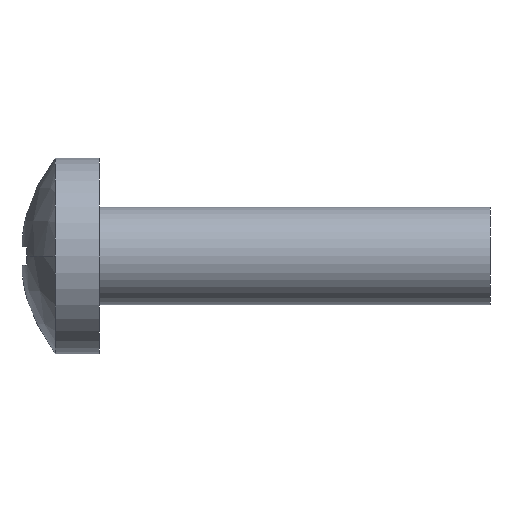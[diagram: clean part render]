
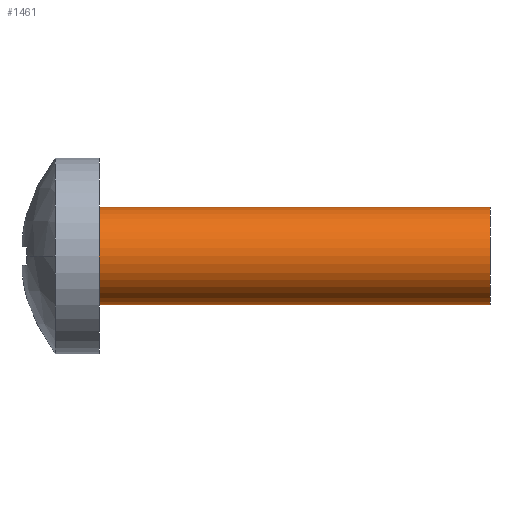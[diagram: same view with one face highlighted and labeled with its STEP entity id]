
A CAD part, front view. The second image highlights one B-rep face of the part: STEP entity #1461.
In plain terms, the highlighted cylindrical face has radius 1 mm (diameter 2 mm), a partial arc.
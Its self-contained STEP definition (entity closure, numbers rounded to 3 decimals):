
#124 = PLANE('',#125);
#125 = AXIS2_PLACEMENT_3D('',#126,#127,#128);
#126 = CARTESIAN_POINT('',(1.6,1.3,0.));
#127 = DIRECTION('',(1.,0.,-0.));
#128 = DIRECTION('',(-0.,0.,-1.));
#212 = VERTEX_POINT('',#213);
#213 = CARTESIAN_POINT('',(1.6,0.,-1.));
#214 = VERTEX_POINT('',#215);
#215 = CARTESIAN_POINT('',(1.6,0.,1.));
#223 = CYLINDRICAL_SURFACE('',#224,1.);
#224 = AXIS2_PLACEMENT_3D('',#225,#226,#227);
#225 = CARTESIAN_POINT('',(4.516,0.,0.));
#226 = DIRECTION('',(1.,-0.,-0.));
#227 = DIRECTION('',(0.,0.,-1.));
#242 = EDGE_CURVE('',#214,#243,#245,.T.);
#243 = VERTEX_POINT('',#244);
#244 = CARTESIAN_POINT('',(9.6,0.,1.));
#245 = SURFACE_CURVE('',#246,(#250,#257),.PCURVE_S1.);
#246 = LINE('',#247,#248);
#247 = CARTESIAN_POINT('',(4.516,0.,1.));
#248 = VECTOR('',#249,1.);
#249 = DIRECTION('',(1.,-0.,-0.));
#250 = PCURVE('',#223,#251);
#251 = DEFINITIONAL_REPRESENTATION('',(#252),#256);
#252 = LINE('',#253,#254);
#253 = CARTESIAN_POINT('',(3.142,0.));
#254 = VECTOR('',#255,1.);
#255 = DIRECTION('',(0.,1.));
#256 = ( GEOMETRIC_REPRESENTATION_CONTEXT(2) 
PARAMETRIC_REPRESENTATION_CONTEXT() REPRESENTATION_CONTEXT('2D SPACE',''
  ) );
#257 = PCURVE('',#258,#263);
#258 = CYLINDRICAL_SURFACE('',#259,1.);
#259 = AXIS2_PLACEMENT_3D('',#260,#261,#262);
#260 = CARTESIAN_POINT('',(4.516,0.,0.));
#261 = DIRECTION('',(1.,-0.,-0.));
#262 = DIRECTION('',(0.,0.,-1.));
#263 = DEFINITIONAL_REPRESENTATION('',(#264),#268);
#264 = LINE('',#265,#266);
#265 = CARTESIAN_POINT('',(3.142,0.));
#266 = VECTOR('',#267,1.);
#267 = DIRECTION('',(0.,1.));
#268 = ( GEOMETRIC_REPRESENTATION_CONTEXT(2) 
PARAMETRIC_REPRESENTATION_CONTEXT() REPRESENTATION_CONTEXT('2D SPACE',''
  ) );
#271 = VERTEX_POINT('',#272);
#272 = CARTESIAN_POINT('',(9.6,0.,-1.));
#287 = PLANE('',#288);
#288 = AXIS2_PLACEMENT_3D('',#289,#290,#291);
#289 = CARTESIAN_POINT('',(9.6,1.,0.));
#290 = DIRECTION('',(1.,0.,-0.));
#291 = DIRECTION('',(-0.,0.,-1.));
#299 = EDGE_CURVE('',#212,#271,#300,.T.);
#300 = SURFACE_CURVE('',#301,(#305,#312),.PCURVE_S1.);
#301 = LINE('',#302,#303);
#302 = CARTESIAN_POINT('',(4.516,0.,-1.));
#303 = VECTOR('',#304,1.);
#304 = DIRECTION('',(1.,-0.,-0.));
#305 = PCURVE('',#223,#306);
#306 = DEFINITIONAL_REPRESENTATION('',(#307),#311);
#307 = LINE('',#308,#309);
#308 = CARTESIAN_POINT('',(0.,0.));
#309 = VECTOR('',#310,1.);
#310 = DIRECTION('',(0.,1.));
#311 = ( GEOMETRIC_REPRESENTATION_CONTEXT(2) 
PARAMETRIC_REPRESENTATION_CONTEXT() REPRESENTATION_CONTEXT('2D SPACE',''
  ) );
#312 = PCURVE('',#258,#313);
#313 = DEFINITIONAL_REPRESENTATION('',(#314),#318);
#314 = LINE('',#315,#316);
#315 = CARTESIAN_POINT('',(6.283,0.));
#316 = VECTOR('',#317,1.);
#317 = DIRECTION('',(0.,1.));
#318 = ( GEOMETRIC_REPRESENTATION_CONTEXT(2) 
PARAMETRIC_REPRESENTATION_CONTEXT() REPRESENTATION_CONTEXT('2D SPACE',''
  ) );
#1440 = EDGE_CURVE('',#243,#271,#1441,.T.);
#1441 = SURFACE_CURVE('',#1442,(#1447,#1454),.PCURVE_S1.);
#1442 = CIRCLE('',#1443,1.);
#1443 = AXIS2_PLACEMENT_3D('',#1444,#1445,#1446);
#1444 = CARTESIAN_POINT('',(9.6,0.,0.));
#1445 = DIRECTION('',(1.,-0.,0.));
#1446 = DIRECTION('',(0.,0.,-1.));
#1447 = PCURVE('',#287,#1448);
#1448 = DEFINITIONAL_REPRESENTATION('',(#1449),#1453);
#1449 = CIRCLE('',#1450,1.);
#1450 = AXIS2_PLACEMENT_2D('',#1451,#1452);
#1451 = CARTESIAN_POINT('',(0.,-1.));
#1452 = DIRECTION('',(1.,0.));
#1453 = ( GEOMETRIC_REPRESENTATION_CONTEXT(2) 
PARAMETRIC_REPRESENTATION_CONTEXT() REPRESENTATION_CONTEXT('2D SPACE',''
  ) );
#1454 = PCURVE('',#258,#1455);
#1455 = DEFINITIONAL_REPRESENTATION('',(#1456),#1460);
#1456 = LINE('',#1457,#1458);
#1457 = CARTESIAN_POINT('',(0.,5.084));
#1458 = VECTOR('',#1459,1.);
#1459 = DIRECTION('',(1.,0.));
#1460 = ( GEOMETRIC_REPRESENTATION_CONTEXT(2) 
PARAMETRIC_REPRESENTATION_CONTEXT() REPRESENTATION_CONTEXT('2D SPACE',''
  ) );
#1461 = ADVANCED_FACE('',(#1462),#258,.T.);
#1462 = FACE_BOUND('',#1463,.T.);
#1463 = EDGE_LOOP('',(#1464,#1465,#1487,#1488));
#1464 = ORIENTED_EDGE('',*,*,#242,.F.);
#1465 = ORIENTED_EDGE('',*,*,#1466,.T.);
#1466 = EDGE_CURVE('',#214,#212,#1467,.T.);
#1467 = SURFACE_CURVE('',#1468,(#1473,#1480),.PCURVE_S1.);
#1468 = CIRCLE('',#1469,1.);
#1469 = AXIS2_PLACEMENT_3D('',#1470,#1471,#1472);
#1470 = CARTESIAN_POINT('',(1.6,0.,0.));
#1471 = DIRECTION('',(1.,-0.,0.));
#1472 = DIRECTION('',(0.,0.,-1.));
#1473 = PCURVE('',#258,#1474);
#1474 = DEFINITIONAL_REPRESENTATION('',(#1475),#1479);
#1475 = LINE('',#1476,#1477);
#1476 = CARTESIAN_POINT('',(0.,-2.916));
#1477 = VECTOR('',#1478,1.);
#1478 = DIRECTION('',(1.,0.));
#1479 = ( GEOMETRIC_REPRESENTATION_CONTEXT(2) 
PARAMETRIC_REPRESENTATION_CONTEXT() REPRESENTATION_CONTEXT('2D SPACE',''
  ) );
#1480 = PCURVE('',#124,#1481);
#1481 = DEFINITIONAL_REPRESENTATION('',(#1482),#1486);
#1482 = CIRCLE('',#1483,1.);
#1483 = AXIS2_PLACEMENT_2D('',#1484,#1485);
#1484 = CARTESIAN_POINT('',(0.,-1.3));
#1485 = DIRECTION('',(1.,0.));
#1486 = ( GEOMETRIC_REPRESENTATION_CONTEXT(2) 
PARAMETRIC_REPRESENTATION_CONTEXT() REPRESENTATION_CONTEXT('2D SPACE',''
  ) );
#1487 = ORIENTED_EDGE('',*,*,#299,.T.);
#1488 = ORIENTED_EDGE('',*,*,#1440,.F.);
